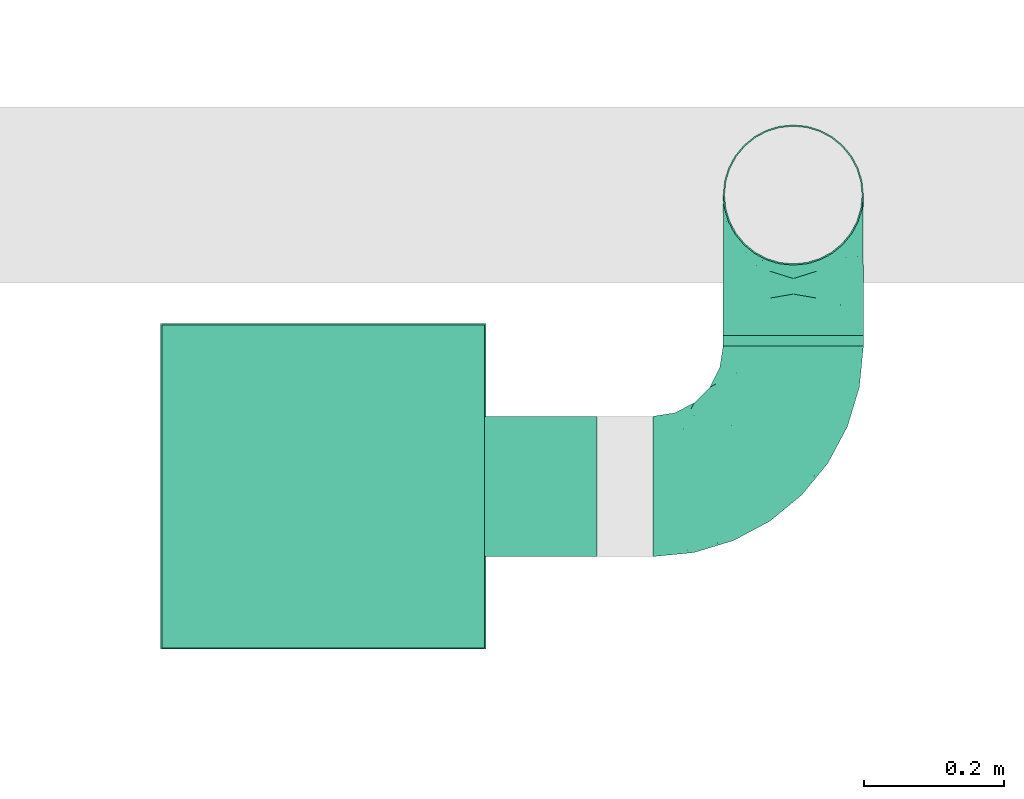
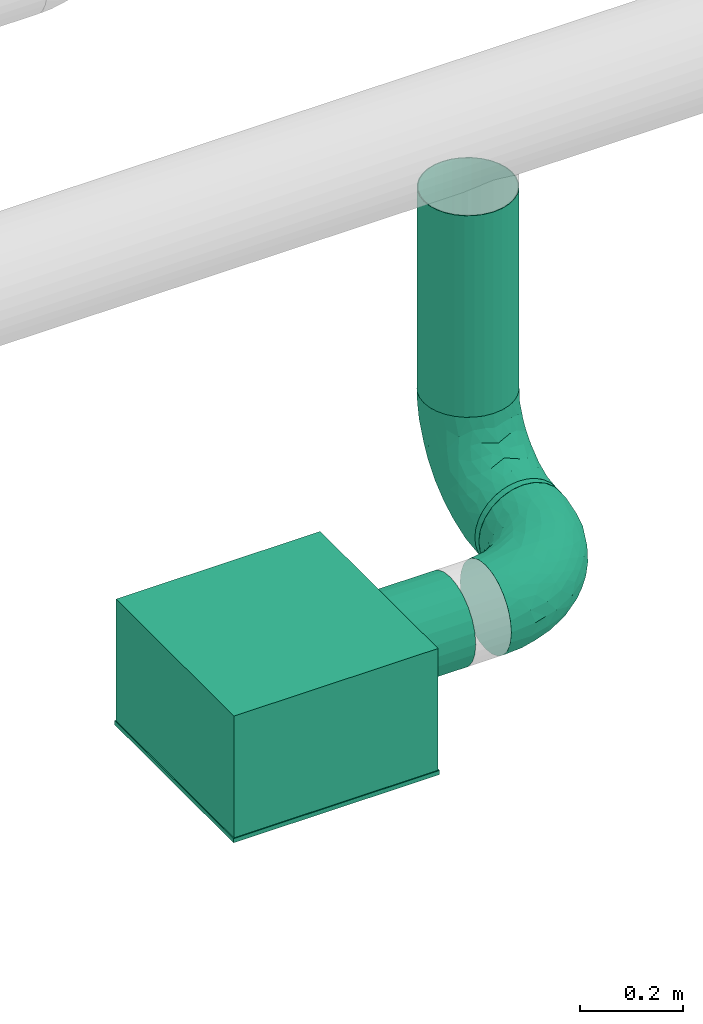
# One storey, part 21 of 31: 2 flow fittings, 2 flow segments, 1 flow terminal.
"""IFC2X3 building model written with IfcOpenShell, lengths in millimetres."""

from ifc_helpers import new_model, entity, si_unit, converted_unit, derived_unit, direction, frame, origin_with_axes, origin_2d_with_axis, place, context, subcontext, project, spatial, hollow_circle, extrude, open_shell, surface_model, source, transform, mapped, type_object, element, save


model = new_model("IFC2X3")

# Units and contexts
model_context = context("Model", 3, precision=0.01, world=frame((0.0, 4.29681676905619e-09, 0.0)), true_north=direction((4.01073788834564e-13, 1.0)))
plan_context = context("Plan", 3, precision=0.01, world=frame((0.0, 4.29681676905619e-09, 0.0)), true_north=direction((4.01073788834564e-13, 1.0)))
body_context = subcontext(model_context, "Body", "Model", "MODEL_VIEW")
ifc_project = project(units=[converted_unit("PLANEANGLEUNIT", "DEGREE", entity("IfcPositiveLengthMeasure", 0.0174532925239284), si_unit("PLANEANGLEUNIT", "RADIAN"), dimensions=[0, 0, 0, 0, 0, 0, 0]), si_unit("AREAUNIT", "SQUARE_METRE"), si_unit("LENGTHUNIT", "METRE", prefix="MILLI"), si_unit("MASSUNIT", "GRAM", prefix="KILO"), si_unit("POWERUNIT", "WATT"), si_unit("PRESSUREUNIT", "PASCAL", prefix="KILO"), si_unit("FORCEUNIT", "NEWTON", prefix="KILO"), si_unit("ELECTRICVOLTAGEUNIT", "VOLT"), si_unit("ELECTRICCURRENTUNIT", "AMPERE"), si_unit("THERMODYNAMICTEMPERATUREUNIT", "DEGREE_CELSIUS"), si_unit("TIMEUNIT", "SECOND"), si_unit("VOLUMEUNIT", "CUBIC_METRE"), derived_unit("LINEARVELOCITYUNIT", [(si_unit("LENGTHUNIT", "METRE"), 1), (si_unit("TIMEUNIT", "SECOND"), -1)]), derived_unit("VOLUMETRICFLOWRATEUNIT", [(si_unit("VOLUMEUNIT", "CUBIC_METRE"), 1), (si_unit("TIMEUNIT", "SECOND"), -1)]), derived_unit("THERMALTRANSMITTANCEUNIT", [(si_unit("POWERUNIT", "WATT"), 1), (si_unit("THERMODYNAMICTEMPERATUREUNIT", "KELVIN"), -1), (si_unit("AREAUNIT", "SQUARE_METRE"), -1)]), derived_unit("SOUNDPRESSUREUNIT", [(si_unit("PRESSUREUNIT", "PASCAL"), 1)])], contexts=[model_context, plan_context])

# Site, building, storey
site_placement = place(None, frame((0.0, -4.29681676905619e-09, 0.0), z_axis=(0.0, 0.0, 1.0), x_axis=(1.0, 0.0, 0.0)))
site = spatial("IfcSite", under=ifc_project, at=site_placement, CompositionType="ELEMENT")
building_placement = place(site_placement, frame((0.0, 4.29681676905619e-09, 0.0), z_axis=(0.0, 0.0, 1.0), x_axis=(1.0, 0.0, 0.0)))
building = spatial("IfcBuilding", under=site, at=building_placement, Name="mc-building", CompositionType="ELEMENT")
storey_placement = place(building_placement, frame((0.0, 0.0, 210900.0), z_axis=(0.0, 0.0, 1.0), x_axis=(1.0, 0.0, 0.0)))
storey = spatial("IfcBuildingStorey", under=building, at=storey_placement, Name="Nivå F", CompositionType="ELEMENT", Elevation=210900.0)

# Flow fittings
duct_fitting_type = type_object("IfcDuctFittingType", Name="magicirc_elbow_full_radius_001", PredefinedType="BEND")
shared_shape_1 = source(origin_with_axes(), body_context, "Body", "SurfaceModel", [
    surface_model("IfcShellBasedSurfaceModel", [(-200.0, 25.8819, -96.59259), (-200.0, 0.0, -100.0), (-200.0, 96.59259, -25.8819), (-200.0, 50.0, -86.60254), (-200.0, 70.71068, -70.71068), (-200.0, 86.60254, -50.0), (-200.0, 100.0, 0.0), (-200.0, -70.71068, -70.71068), (-200.0, -50.0, -86.60254), (-200.0, -25.8819, -96.59259), (-200.0, -86.60254, -50.0), (-200.0, -96.59259, -25.8819), (-200.0, -96.59259, 25.8819), (-200.0, -100.0, 0.0), (-200.0, 86.60254, 50.0), (-200.0, 96.59259, 25.8819), (-200.0, -50.0, 86.60254), (-200.0, 25.8819, 96.59259), (-200.0, 50.0, 86.60254), (-200.0, 70.71068, 70.71068), (-200.0, -86.60254, 50.0), (-200.0, -70.71068, 70.71068), (-200.0, -25.8819, 96.59259), (-200.0, 0.0, 100.0), (-25.8819, 200.0, -96.59259), (96.59259, 200.0, 25.8819), (0.0, 200.0, -100.0), (-70.71068, 200.0, -70.71068), (-50.0, 200.0, -86.60254), (-86.60254, 200.0, -50.0), (70.71068, 200.0, -70.71068), (25.8819, 200.0, -96.59259), (50.0, 200.0, -86.60254), (96.59259, 200.0, -25.8819), (86.60254, 200.0, -50.0), (100.0, 200.0, 0.0), (-96.59259, 200.0, -25.8819), (-100.0, 200.0, 0.0), (-96.59259, 200.0, 25.8819), (-86.60254, 200.0, 50.0), (-50.0, 200.0, 86.60254), (-25.8819, 200.0, 96.59259), (-70.71068, 200.0, 70.71068), (50.0, 200.0, 86.60254), (70.71068, 200.0, 70.71068), (86.60254, 200.0, 50.0), (25.8819, 200.0, 96.59259), (0.0, 200.0, 100.0), (-170.28345, -80.453, 57.20341), (-151.30505, -62.14272, 74.57098), (-141.47291, -94.23558, 0.0), (-152.48501, -91.13434, 31.26682), (-175.16033, -97.5535, 0.0), (49.44088, 33.32893, 0.0), (56.65771, 47.69157, 17.5513), (30.78646, 10.59845, 0.0), (-115.72747, -62.79147, 65.02361), (-110.24866, -47.46346, 77.46704), (-131.78251, -77.03572, 52.17296), (-155.84565, 81.73243, 67.52503), (-165.38682, 59.81194, 83.11685), (-153.53621, -15.46231, 97.89391), (-99.34826, -9.37473, 94.63603), (-109.04028, 19.17637, 99.9709), (-11.41001, 147.58509, 99.90915), (-66.65717, -62.98288, 31.65851), (-19.65477, -37.28433, 19.69829), (-42.80044, -46.52394, 38.2888), (-76.76667, -58.58513, 50.26593), (-107.75087, -80.71677, 29.70656), (-170.73585, -40.65955, 90.5511), (-172.81551, 101.70087, 19.84455), (-146.92494, 108.70969, 32.98808), (-141.22148, 119.0983, 0.0), (-63.14521, 144.11081, 85.31109), (-80.51529, 161.84448, 66.62709), (-89.41257, 123.59035, 75.49114), (-59.28706, 175.69502, 82.02298), (-159.40173, 10.55746, 99.80411), (77.16386, 85.19497, 0.0), (62.56216, 67.38452, 33.69402), (-101.70087, 172.81551, 19.84455), (-93.96462, 171.01, 43.43771), (-171.01, 93.96462, 43.43771), (-151.20277, 37.27353, 95.35782), (-100.76094, 141.8163, 52.73949), (-123.065, 123.065, 41.02461), (-115.71118, 115.71117, 58.92154), (-108.70969, 146.92494, 32.98808), (-169.09831, 104.89435, 0.0), (-126.3807, 68.32629, 87.09158), (-3.53309, 67.51081, 92.91692), (-29.40722, 29.40721, 91.09367), (0.78973, 37.96478, 81.45071), (-60.00062, -0.36077, 89.58959), (-67.88209, 21.58789, 97.54896), (62.32031, 154.13138, 74.86163), (-141.8163, 100.76094, 52.73949), (91.13434, 152.48501, 31.26682), (80.453, 170.28345, 57.20341), (-18.49849, -12.30744, 60.90175), (8.80323, 19.6267, 65.08263), (-25.42255, 3.46809, 77.76258), (-74.03921, 114.7783, 87.77152), (-87.24231, 87.48345, 91.33971), (-52.29396, 97.96814, 97.88047), (97.5535, 175.16033, 0.0), (15.66986, 158.34417, 98.04921), (39.67143, 143.40046, 88.65468), (-104.89435, 169.09831, 0.0), (-119.0983, 141.22148, 0.0), (-79.31604, 55.69606, 99.29154), (50.31225, 117.34231, 77.16335), (77.03572, 131.78251, 52.17296), (-113.91527, 94.9934, 76.65605), (64.93177, 92.97178, 51.47516), (47.72556, 81.69016, 66.67609), (40.01044, 43.97718, 50.57869), (-17.45546, -26.87288, 41.03287), (-127.86769, 127.86769, 19.95139), (-59.26195, -63.30237, 0.0), (-33.32893, -49.44088, 0.0), (-15.13235, 108.44666, 99.8016), (9.03102, 110.97634, 96.23014), (-35.35458, 66.6809, 99.29493), (-36.40308, 160.4143, 94.8486), (-32.26105, 126.83648, 98.54453), (5.63455, -13.55537, 26.35365), (8.74012, 0.17058, 45.65263), (46.65777, 40.2329, 34.44568), (80.66195, 107.48302, 29.60457), (85.69972, 113.33393, 0.0), (28.17336, 90.6004, 84.77214), (-103.20436, 61.65595, 95.02282), (-132.43349, -38.40548, 87.83865), (-113.33393, -85.69972, 0.0), (-87.1495, -28.94235, 83.35483), (-47.7214, -39.47514, 54.58142), (-52.3084, 125.73797, 93.79051), (25.86889, 52.68176, 71.74074), (63.30237, 59.26195, 0.0), (94.23558, 141.47291, 0.0), (29.54521, 14.24018, 30.32032), (-85.19497, -77.16386, 0.0), (-50.98503, -24.63183, 71.83876), (-81.69017, -47.72556, 66.67609), (-10.59845, -30.78646, 0.0), (12.13203, -12.13203, 0.0), (-160.4143, 36.40307, -94.8486), (-126.83648, 32.26105, -98.54453), (-147.58509, 11.41001, -99.90915), (-59.81194, 165.3868, -83.11686), (-158.34417, -15.66986, -98.0492), (-110.97634, -9.03102, -96.23014), (12.30745, 18.4985, -60.90175), (-19.62669, -8.80321, -65.08265), (-3.46809, 25.42255, -77.76258), (-114.7783, 74.03921, -87.77153), (-87.48346, 87.2423, -91.33971), (-97.96814, 52.29396, -97.88047), (-172.81551, 101.70087, -19.84455), (13.55537, -5.63454, -26.35364), (-0.17055, -8.74011, -45.6526), (26.87289, 17.45547, -41.03286), (-146.92494, 108.70969, -32.98808), (-47.69157, -56.65771, -17.5513), (-123.06501, 123.065, -41.02461), (-127.86769, 127.86769, -19.95139), (-108.70969, 146.92494, -32.98808), (-175.69502, 59.28706, -82.02298), (-161.84448, 80.51529, -66.62709), (-144.11081, 63.14521, -85.31109), (62.98288, 66.65718, -31.65851), (-81.73243, 155.84565, -67.52503), (-141.8163, 100.76093, -52.73949), (-171.01, 93.96462, -43.43771), (-55.69606, 79.31604, -99.29154), (-66.68089, 35.35458, -99.29493), (-152.48501, -91.13434, -31.26682), (-170.28345, -80.45301, -57.20341), (-92.97178, -64.93177, -51.47516), (-81.69017, -47.72556, -66.67608), (-43.97716, -40.01043, -50.57869), (-10.55746, 159.40173, -99.80411), (15.46231, 153.53621, -97.89391), (-154.13138, -62.32031, -74.86163), (-143.40046, -39.67143, -88.65468), (-37.27353, 151.20276, -95.35782), (-107.48302, -80.66195, -29.60457), (0.36078, 60.00061, -89.58959), (-29.40721, 29.40721, -91.09366), (-21.58789, 67.88208, -97.54896), (-100.76094, 141.8163, -52.73949), (-93.96462, 171.01, -43.43771), (-101.70087, 172.81551, -19.84455), (-19.17637, 109.04027, -99.9709), (-123.59035, 89.41257, -75.49114), (62.14272, 151.30505, -74.57098), (40.65955, 170.73585, -90.5511), (46.52395, 42.80044, -38.28881), (37.28435, 19.6548, -19.69829), (-68.3263, 126.38069, -87.09158), (-67.51081, 3.53309, -92.91692), (-37.96476, -0.78971, -81.45071), (58.58512, 76.76664, -50.26592), (-67.38452, -62.56216, -33.69402), (80.45301, 170.28345, -57.20341), (80.71677, 107.75087, -29.70656), (38.40548, 132.43348, -87.83865), (62.79147, 115.72747, -65.02361), (47.46347, 110.24866, -77.46703), (91.13434, 152.48501, -31.26682), (-40.2329, -46.65777, -34.44568), (-90.60041, -28.17337, -84.77214), (77.03572, 131.78251, -52.17296), (9.37473, 99.34825, -94.63603), (-117.34231, -50.31225, -77.16335), (-131.78251, -77.03572, -52.17296), (-94.99341, 113.91526, -76.65605), (-108.44666, 15.13234, -99.8016), (-61.65596, 103.20434, -95.02282), (28.94235, 87.1495, -83.35483), (39.47513, 47.72139, -54.58143), (-125.73797, 52.30839, -93.79051), (-52.68177, -25.86889, -71.74075), (-115.71118, 115.71117, -58.92154), (-14.24018, -29.54521, -30.32033), (24.63182, 50.98504, -71.83876), (47.72556, 81.69017, -66.67609)], [open_shell([[[0, 1, 2]], [[3, 0, 4]], [[2, 5, 4]], [[0, 2, 4]], [[6, 1, 7]], [[8, 7, 9]], [[7, 1, 9]], [[10, 11, 7]], [[12, 11, 13]], [[12, 7, 11]], [[2, 1, 6]], [[14, 15, 6]], [[16, 14, 7]], [[14, 17, 18]], [[19, 14, 18]], [[17, 14, 16]], [[20, 21, 12]], [[16, 12, 21]], [[16, 22, 17]], [[16, 7, 12]], [[17, 22, 23]], [[14, 6, 7]], [[24, 25, 26]], [[27, 24, 28]], [[25, 27, 29]], [[24, 27, 25]], [[30, 26, 25]], [[31, 30, 32]], [[31, 26, 30]], [[30, 33, 34]], [[35, 33, 25]], [[33, 30, 25]], [[25, 29, 36]], [[37, 38, 39]], [[25, 37, 39]], [[40, 41, 39]], [[40, 39, 42]], [[43, 39, 41]], [[25, 44, 45]], [[44, 25, 43]], [[41, 46, 43]], [[43, 25, 39]], [[47, 46, 41]], [[37, 25, 36]], [[21, 48, 49]], [[50, 51, 52]], [[53, 54, 55]], [[56, 57, 49]], [[48, 51, 58]], [[59, 19, 60]], [[61, 62, 63]], [[47, 41, 64]], [[65, 66, 67]], [[68, 69, 65]], [[16, 21, 49]], [[19, 18, 60]], [[16, 70, 22]], [[71, 72, 73]], [[74, 75, 76]], [[77, 40, 42]], [[19, 59, 14]], [[23, 78, 17]], [[54, 79, 80]], [[38, 81, 82]], [[70, 61, 22]], [[21, 20, 48]], [[83, 15, 14]], [[83, 72, 71]], [[84, 18, 17]], [[6, 15, 71]], [[85, 86, 87]], [[85, 82, 88]], [[71, 73, 89]], [[22, 61, 23]], [[90, 60, 84]], [[91, 92, 93]], [[65, 67, 68]], [[94, 92, 95]], [[43, 96, 44]], [[97, 72, 83]], [[25, 45, 98]], [[44, 99, 45]], [[75, 42, 39]], [[100, 101, 102]], [[103, 104, 105]], [[98, 106, 25]], [[46, 107, 108]], [[108, 96, 43]], [[109, 110, 81]], [[104, 111, 105]], [[112, 113, 96]], [[98, 45, 99]], [[114, 59, 90]], [[108, 43, 46]], [[115, 116, 117]], [[88, 81, 110]], [[67, 66, 118]], [[110, 73, 119]], [[109, 81, 37]], [[95, 111, 63]], [[120, 121, 65]], [[86, 119, 72]], [[122, 123, 64]], [[111, 124, 105]], [[75, 74, 77]], [[64, 125, 126]], [[127, 128, 118]], [[80, 129, 54]], [[41, 40, 125]], [[125, 64, 41]], [[123, 107, 64]], [[98, 130, 131]], [[132, 108, 123]], [[47, 107, 46]], [[78, 23, 61]], [[20, 12, 51]], [[133, 63, 111]], [[130, 98, 113]], [[115, 117, 80]], [[82, 39, 38]], [[75, 85, 76]], [[62, 61, 134]], [[78, 63, 84]], [[56, 49, 58]], [[70, 49, 134]], [[51, 12, 52]], [[51, 135, 69]], [[115, 130, 113]], [[82, 81, 88]], [[62, 136, 94]], [[62, 94, 95]], [[67, 118, 137]], [[69, 58, 51]], [[77, 125, 40]], [[126, 138, 105]], [[112, 96, 108]], [[99, 96, 113]], [[117, 116, 139]], [[66, 127, 118]], [[92, 102, 93]], [[92, 94, 102]], [[63, 78, 61]], [[84, 17, 78]], [[64, 107, 47]], [[108, 107, 123]], [[84, 60, 18]], [[59, 60, 90]], [[87, 114, 76]], [[104, 103, 114]], [[114, 87, 97]], [[104, 114, 90]], [[63, 133, 84]], [[138, 103, 105]], [[90, 133, 104]], [[63, 62, 95]], [[91, 124, 92]], [[122, 64, 126]], [[92, 124, 95]], [[111, 95, 124]], [[140, 79, 54]], [[131, 141, 98]], [[88, 86, 85]], [[75, 39, 82]], [[76, 85, 87]], [[75, 82, 85]], [[14, 59, 83]], [[97, 87, 86]], [[83, 59, 97]], [[114, 97, 59]], [[117, 142, 129]], [[65, 69, 143]], [[136, 62, 134]], [[102, 101, 93]], [[144, 94, 136]], [[137, 100, 144]], [[57, 136, 134]], [[136, 145, 144]], [[101, 139, 93]], [[91, 132, 123]], [[93, 139, 132]], [[91, 123, 122]], [[93, 132, 91]], [[132, 116, 112]], [[144, 100, 102]], [[128, 100, 118]], [[144, 102, 94]], [[137, 144, 145]], [[137, 145, 68]], [[100, 137, 118]], [[56, 68, 145]], [[69, 68, 58]], [[101, 128, 117]], [[132, 139, 116]], [[101, 117, 139]], [[129, 80, 117]], [[68, 67, 137]], [[65, 143, 120]], [[127, 146, 147]], [[55, 127, 147]], [[66, 146, 127]], [[128, 127, 142]], [[117, 128, 142]], [[100, 128, 101]], [[138, 125, 74]], [[122, 105, 124]], [[105, 122, 126]], [[91, 122, 124]], [[125, 138, 126]], [[138, 74, 103]], [[74, 76, 103]], [[114, 103, 76]], [[132, 112, 108]], [[112, 116, 115]], [[12, 13, 52]], [[106, 98, 141]], [[106, 35, 25]], [[37, 81, 38]], [[88, 110, 119]], [[97, 86, 72]], [[72, 119, 73]], [[88, 119, 86]], [[6, 71, 89]], [[83, 71, 15]], [[75, 77, 42]], [[125, 77, 74]], [[49, 70, 16]], [[61, 70, 134]], [[51, 48, 20]], [[49, 48, 58]], [[96, 99, 44]], [[98, 99, 113]], [[80, 79, 130]], [[130, 115, 80]], [[112, 115, 113]], [[68, 56, 58]], [[57, 56, 145]], [[136, 57, 145]], [[49, 57, 134]], [[65, 121, 66]], [[127, 55, 142]], [[84, 133, 90]], [[111, 104, 133]], [[130, 79, 131]], [[135, 51, 50]], [[135, 143, 69]], [[142, 55, 54]], [[142, 54, 129]], [[140, 54, 53]], [[66, 121, 146]], [[148, 149, 150]], [[28, 151, 27]], [[152, 150, 153]], [[154, 155, 156]], [[150, 0, 148]], [[157, 158, 159]], [[89, 160, 6]], [[161, 162, 163]], [[164, 160, 73]], [[121, 165, 146]], [[166, 167, 168]], [[169, 170, 171]], [[140, 53, 172]], [[27, 173, 29]], [[174, 175, 164]], [[176, 177, 159]], [[178, 10, 179]], [[180, 181, 182]], [[178, 52, 11]], [[183, 26, 184]], [[185, 8, 186]], [[0, 3, 148]], [[9, 186, 8]], [[187, 28, 24]], [[31, 184, 26]], [[178, 11, 10]], [[179, 10, 7]], [[178, 188, 135]], [[7, 8, 185]], [[152, 186, 9]], [[189, 190, 191]], [[158, 176, 159]], [[167, 73, 110]], [[192, 168, 193]], [[166, 168, 192]], [[193, 36, 29]], [[36, 194, 37]], [[191, 176, 195]], [[171, 170, 196]], [[194, 193, 168]], [[160, 175, 2]], [[197, 32, 30]], [[198, 184, 31]], [[173, 27, 151]], [[169, 3, 4]], [[26, 183, 24]], [[199, 200, 163]], [[187, 201, 151]], [[202, 190, 203]], [[31, 32, 198]], [[199, 172, 200]], [[172, 199, 204]], [[165, 143, 205]], [[30, 34, 206]], [[207, 172, 204]], [[89, 73, 160]], [[198, 197, 208]], [[9, 1, 152]], [[209, 210, 197]], [[170, 4, 5]], [[211, 106, 141]], [[205, 212, 165]], [[213, 186, 153]], [[211, 214, 206]], [[34, 33, 211]], [[215, 195, 184]], [[194, 168, 110]], [[1, 0, 150]], [[216, 217, 185]], [[194, 110, 109]], [[218, 173, 201]], [[219, 153, 150]], [[220, 195, 176]], [[188, 178, 217]], [[180, 182, 205]], [[175, 5, 2]], [[170, 174, 196]], [[206, 197, 30]], [[209, 197, 214]], [[215, 184, 208]], [[183, 195, 187]], [[211, 33, 106]], [[211, 131, 207]], [[180, 188, 217]], [[33, 35, 106]], [[215, 221, 189]], [[215, 189, 191]], [[199, 163, 222]], [[207, 214, 211]], [[169, 148, 3]], [[149, 223, 159]], [[216, 185, 186]], [[179, 185, 217]], [[182, 181, 224]], [[200, 161, 163]], [[190, 156, 203]], [[190, 189, 156]], [[195, 183, 184]], [[187, 24, 183]], [[150, 152, 1]], [[186, 152, 153]], [[187, 151, 28]], [[173, 151, 201]], [[225, 218, 196]], [[158, 157, 218]], [[218, 225, 192]], [[158, 218, 201]], [[195, 220, 187]], [[223, 157, 159]], [[201, 220, 158]], [[195, 215, 191]], [[202, 177, 190]], [[219, 150, 149]], [[190, 177, 191]], [[176, 191, 177]], [[120, 143, 165]], [[135, 50, 178]], [[164, 166, 174]], [[170, 5, 175]], [[196, 174, 225]], [[170, 175, 174]], [[29, 173, 193]], [[192, 225, 166]], [[193, 173, 192]], [[218, 192, 173]], [[182, 226, 212]], [[172, 207, 79]], [[221, 215, 208]], [[156, 155, 203]], [[227, 189, 221]], [[222, 154, 227]], [[210, 221, 208]], [[221, 228, 227]], [[155, 224, 203]], [[202, 213, 153]], [[203, 224, 213]], [[202, 153, 219]], [[203, 213, 202]], [[213, 181, 216]], [[227, 154, 156]], [[162, 154, 163]], [[227, 156, 189]], [[222, 227, 228]], [[222, 228, 204]], [[154, 222, 163]], [[209, 204, 228]], [[207, 204, 214]], [[155, 162, 182]], [[213, 224, 181]], [[155, 182, 224]], [[212, 205, 182]], [[204, 199, 222]], [[172, 79, 140]], [[161, 55, 147]], [[146, 161, 147]], [[200, 55, 161]], [[162, 161, 226]], [[182, 162, 226]], [[154, 162, 155]], [[223, 148, 171]], [[219, 159, 177]], [[159, 219, 149]], [[202, 219, 177]], [[148, 223, 149]], [[223, 171, 157]], [[171, 196, 157]], [[218, 157, 196]], [[213, 216, 186]], [[216, 181, 180]], [[52, 178, 50]], [[52, 13, 11]], [[175, 160, 164]], [[6, 160, 2]], [[174, 166, 225]], [[167, 164, 73]], [[168, 167, 110]], [[164, 167, 166]], [[37, 194, 109]], [[193, 194, 36]], [[170, 169, 4]], [[148, 169, 171]], [[197, 198, 32]], [[184, 198, 208]], [[211, 206, 34]], [[197, 206, 214]], [[185, 179, 7]], [[178, 179, 217]], [[205, 143, 188]], [[188, 180, 205]], [[216, 180, 217]], [[204, 209, 214]], [[210, 209, 228]], [[221, 210, 228]], [[197, 210, 208]], [[172, 53, 200]], [[161, 146, 226]], [[187, 220, 201]], [[176, 158, 220]], [[188, 143, 135]], [[131, 211, 141]], [[131, 79, 207]], [[226, 146, 165]], [[226, 165, 212]], [[120, 165, 121]], [[200, 53, 55]]])]),
])
for number, where, z_axis, x_axis, name in (
    (1, (723870.52987, 440841.83428, 2965.0), (-1.0, 0.0, 0.0), (0.0, 0.0, -1.0), "magicirc_elbow_full_radius_001"),
    (2, (723870.52987, 440426.3317, 2965.0), (0.0, 0.0, 1.0), (1.0, 0.0, 0.0), "magicirc_elbow_full_radius_001"),
):
    element("IfcFlowFitting", number, at=place(storey_placement, frame(where, z_axis=z_axis, x_axis=x_axis)), inside=storey, type_object=duct_fitting_type, Name=name, context=body_context, shape_type="MappedRepresentation", body=[
        mapped(shared_shape_1, transform((0.0, 0.0, 0.0), scale=1.0)),
    ])

# Flow segments
duct_segment_type = type_object("IfcDuctSegmentType", Name="KK001T - Spiro kanaler, Forsinket stål", PredefinedType="RIGIDSEGMENT")
shared_shape_2 = source(origin_with_axes(), body_context, "Body", "SweptSolid", [
    extrude(hollow_circle(Radius=100.0, WallThickness=2.0, at=origin_2d_with_axis()), frame((0.0, 0.0, 0.0), z_axis=(1.0, 0.0, 0.0), x_axis=(0.0, 1.0, 0.0)), (0.0, 0.0, 1.0), 15.5),
])
flow_segment_1_placement = place(storey_placement, frame((723870.52987, 440641.83428, 2965.0), z_axis=(0.0, 0.0, 1.0), x_axis=(0.0, -1.0, 0.0)))
element("IfcFlowSegment", 3, at=flow_segment_1_placement, inside=storey, type_object=duct_segment_type, Name="KK001T - Spiro kanaler, Forsinket stål", context=body_context, shape_type="MappedRepresentation", body=[
    mapped(shared_shape_2, transform((0.0, 0.0, 0.0), scale=1.0)),
])
shared_shape_3 = source(origin_with_axes(), body_context, "Body", "SweptSolid", [
    extrude(hollow_circle(Radius=100.0, WallThickness=2.0, at=origin_2d_with_axis()), frame((0.0, 0.0, 0.0), z_axis=(1.0, 0.0, 0.0), x_axis=(0.0, 1.0, 0.0)), (0.0, 0.0, 1.0), 480.0),
])
flow_segment_2_placement = place(storey_placement, frame((723870.52987, 440841.83428, 3645.0), z_axis=(0.0, -1.0, 0.0), x_axis=(0.0, 0.0, -1.0)))
element("IfcFlowSegment", 4, at=flow_segment_2_placement, inside=storey, type_object=duct_segment_type, Name="KK001T - Spiro kanaler, Forsinket stål", context=body_context, shape_type="MappedRepresentation", body=[
    mapped(shared_shape_3, transform((0.0, 0.0, 0.0), scale=1.0)),
])

# Flow terminal
air_terminal_type = type_object("IfcAirTerminalType", Name="NS19-H-S-2-200 - 4-way", PredefinedType="NOTDEFINED")
shared_shape_4 = source(origin_with_axes(), body_context, "Body", "SurfaceModel", [
    surface_model("IfcShellBasedSurfaceModel", [(-231.99999, 231.99999, 0.0), (-231.99999, -231.99999, 0.0), (231.99999, -231.99999, 0.0), (231.99999, 231.99999, 0.0), (231.99999, 231.99999, -10.0), (231.99999, -231.99999, -10.0), (-231.99999, -231.99999, -10.0), (-231.99999, 231.99999, -10.0), (-230.0, 230.0, 289.99999), (-230.0, -230.0, 289.99999), (230.0, -230.0, 289.99999), (230.0, 230.0, 289.99999), (230.0, 230.0, 0.0), (230.0, -230.0, 0.0), (-230.0, -230.0, 0.0), (-230.0, 230.0, 0.0), (-230.0, 50.0, 78.39746), (-230.0, 70.71068, 94.28932), (-230.0, 49.9, 78.57067), (-230.0, 25.83014, 68.6006), (-230.0, 0.0, 65.2), (-230.0, 25.8819, 68.40742), (-230.0, 0.0, 65.0), (-230.0, 70.56926, 94.43075), (-230.0, 96.59259, 139.1181), (-230.0, 99.8, 164.99999), (-230.0, 96.39939, 139.16986), (-230.0, 100.0, 164.99999), (-230.0, 86.60254, 115.0), (-230.0, 86.42934, 115.1), (-230.0, -25.83014, 68.6006), (-230.0, -25.8819, 68.40742), (-230.0, -49.9, 78.57067), (-230.0, -70.71068, 94.28932), (-230.0, -50.0, 78.39746), (-230.0, -70.56926, 94.43075), (-230.0, -86.42934, 115.1), (-230.0, -86.60254, 115.0), (-230.0, -96.39939, 139.16986), (-230.0, -96.59259, 139.1181), (-230.0, -99.8, 164.99999), (-230.0, -100.0, 164.99999), (-230.0, 96.59259, 190.8819), (-230.0, 96.39939, 190.83014), (-230.0, 86.42934, 214.9), (-230.0, 86.60254, 214.99999), (-230.0, 70.56926, 235.56925), (-230.0, 70.71068, 235.71069), (-230.0, 50.0, 251.60254), (-230.0, 49.9, 251.42933), (-230.0, 25.83014, 261.3994), (-230.0, 25.8819, 261.59259), (-230.0, 0.0, 264.80001), (-230.0, 0.0, 264.99999), (-230.0, -86.60254, 214.99999), (-230.0, -86.42934, 214.9), (-230.0, -70.71068, 235.71069), (-230.0, -70.56926, 235.56925), (-230.0, -96.59259, 190.8819), (-230.0, -96.39939, 190.83014), (-230.0, -25.83014, 261.3994), (-230.0, -25.8819, 261.59259), (-230.0, -49.9, 251.42933), (-230.0, -50.0, 251.60254), (-390.0, 50.0, 251.60254), (-390.0, 70.71068, 235.71069), (-390.0, 49.9, 251.42933), (-390.0, 25.83014, 261.3994), (-390.0, 0.0, 264.80001), (-390.0, 25.8819, 261.59259), (-390.0, 0.0, 264.99999), (-390.0, 70.56926, 235.56925), (-390.0, 96.59259, 190.8819), (-390.0, 99.8, 164.99999), (-390.0, 96.39939, 190.83014), (-390.0, 100.0, 164.99999), (-390.0, 86.60254, 214.99999), (-390.0, 86.42934, 214.9), (-390.0, -25.83014, 261.3994), (-390.0, -25.8819, 261.59259), (-390.0, -49.9, 251.42933), (-390.0, -70.71068, 235.71069), (-390.0, -50.0, 251.60254), (-390.0, -70.56926, 235.56925), (-390.0, -86.42934, 214.9), (-390.0, -86.60254, 214.99999), (-390.0, -96.39939, 190.83014), (-390.0, -96.59259, 190.8819), (-390.0, -99.8, 164.99999), (-390.0, -100.0, 164.99999), (-390.0, 96.59259, 139.1181), (-390.0, 96.39939, 139.16986), (-390.0, 86.42934, 115.1), (-390.0, 86.60254, 115.0), (-390.0, 70.56926, 94.43075), (-390.0, 70.71068, 94.28932), (-390.0, 50.0, 78.39746), (-390.0, 49.9, 78.57067), (-390.0, 25.83014, 68.6006), (-390.0, 25.8819, 68.40742), (-390.0, 0.0, 65.2), (-390.0, 0.0, 65.0), (-390.0, -86.60254, 115.0), (-390.0, -86.42934, 115.1), (-390.0, -70.71068, 94.28932), (-390.0, -70.56926, 94.43075), (-390.0, -96.59259, 139.1181), (-390.0, -96.39939, 139.16986), (-390.0, -25.83014, 68.6006), (-390.0, -25.8819, 68.40742), (-390.0, -49.9, 78.57067), (-390.0, -50.0, 78.39746)], [open_shell([[[0, 1, 2]], [[2, 3, 0]], [[4, 5, 6]], [[6, 7, 4]], [[2, 1, 6]], [[6, 5, 2]], [[3, 2, 5]], [[5, 4, 3]], [[0, 3, 4]], [[4, 7, 0]], [[1, 0, 7]], [[7, 6, 1]], [[8, 9, 10]], [[10, 11, 8]], [[12, 13, 14]], [[14, 15, 12]], [[10, 9, 13]], [[14, 13, 9]], [[11, 10, 12]], [[13, 12, 10]], [[8, 11, 15]], [[12, 15, 11]], [[9, 8, 14]], [[15, 14, 8]], [[16, 17, 18]], [[16, 18, 19]], [[20, 21, 19]], [[21, 20, 22]], [[19, 21, 16]], [[18, 17, 23]], [[24, 25, 26]], [[25, 24, 27]], [[24, 26, 28]], [[23, 28, 29]], [[28, 23, 17]], [[29, 28, 26]], [[22, 30, 31]], [[31, 30, 32]], [[33, 34, 35]], [[32, 34, 31]], [[32, 35, 34]], [[22, 20, 30]], [[36, 37, 33]], [[37, 36, 38]], [[36, 33, 35]], [[39, 38, 40]], [[38, 39, 37]], [[39, 40, 41]], [[27, 42, 43]], [[43, 42, 44]], [[44, 45, 46]], [[45, 44, 42]], [[46, 45, 47]], [[47, 48, 49]], [[49, 48, 50]], [[50, 51, 52]], [[51, 50, 48]], [[52, 51, 53]], [[49, 46, 47]], [[54, 55, 56]], [[56, 55, 57]], [[55, 54, 58]], [[41, 59, 58]], [[58, 59, 55]], [[41, 40, 59]], [[60, 53, 61]], [[60, 61, 62]], [[57, 63, 56]], [[57, 62, 63]], [[63, 62, 61]], [[52, 53, 60]], [[43, 25, 27]], [[64, 65, 66]], [[64, 66, 67]], [[68, 69, 67]], [[69, 68, 70]], [[67, 69, 64]], [[66, 65, 71]], [[72, 73, 74]], [[73, 72, 75]], [[72, 74, 76]], [[71, 76, 77]], [[76, 71, 65]], [[77, 76, 74]], [[70, 78, 79]], [[79, 78, 80]], [[81, 82, 83]], [[80, 82, 79]], [[80, 83, 82]], [[70, 68, 78]], [[84, 85, 81]], [[85, 84, 86]], [[84, 81, 83]], [[87, 86, 88]], [[86, 87, 85]], [[87, 88, 89]], [[75, 90, 91]], [[91, 90, 92]], [[92, 93, 94]], [[93, 92, 90]], [[94, 93, 95]], [[95, 96, 97]], [[97, 96, 98]], [[98, 99, 100]], [[99, 98, 96]], [[100, 99, 101]], [[97, 94, 95]], [[102, 103, 104]], [[104, 103, 105]], [[103, 102, 106]], [[89, 107, 106]], [[106, 107, 103]], [[89, 88, 107]], [[108, 101, 109]], [[108, 109, 110]], [[105, 111, 104]], [[105, 110, 111]], [[111, 110, 109]], [[100, 101, 108]], [[91, 73, 75]], [[39, 106, 102]], [[104, 37, 102]], [[34, 111, 109]], [[104, 111, 33]], [[31, 109, 101]], [[106, 41, 89]], [[106, 39, 41]], [[102, 37, 39]], [[104, 33, 37]], [[34, 33, 111]], [[109, 31, 34]], [[101, 22, 31]], [[21, 99, 96]], [[95, 16, 96]], [[28, 93, 90]], [[95, 93, 17]], [[24, 90, 75]], [[99, 21, 22]], [[96, 16, 21]], [[95, 17, 16]], [[93, 28, 17]], [[24, 28, 90]], [[75, 27, 24]], [[99, 22, 101]], [[75, 72, 42]], [[48, 64, 69]], [[64, 47, 65]], [[51, 69, 70]], [[72, 45, 42]], [[42, 27, 75]], [[76, 47, 45]], [[76, 65, 47]], [[47, 64, 48]], [[69, 51, 48]], [[76, 45, 72]], [[70, 53, 51]], [[61, 79, 82]], [[81, 63, 82]], [[54, 85, 87]], [[81, 85, 56]], [[58, 87, 89]], [[79, 61, 53]], [[82, 63, 61]], [[81, 56, 63]], [[85, 54, 56]], [[58, 54, 87]], [[89, 41, 58]], [[79, 53, 70]], [[103, 107, 38]], [[103, 36, 105]], [[108, 110, 32]], [[35, 110, 105]], [[100, 108, 30]], [[88, 40, 107]], [[40, 38, 107]], [[38, 36, 103]], [[36, 35, 105]], [[110, 35, 32]], [[32, 30, 108]], [[30, 20, 100]], [[97, 98, 19]], [[97, 18, 94]], [[91, 92, 29]], [[23, 92, 94]], [[73, 91, 26]], [[20, 19, 98]], [[19, 18, 97]], [[18, 23, 94]], [[23, 29, 92]], [[91, 29, 26]], [[26, 25, 73]], [[100, 20, 98]], [[43, 74, 73]], [[67, 66, 49]], [[71, 46, 66]], [[68, 67, 50]], [[43, 44, 74]], [[73, 25, 43]], [[44, 46, 77]], [[46, 71, 77]], [[49, 66, 46]], [[49, 50, 67]], [[74, 44, 77]], [[50, 52, 68]], [[80, 78, 60]], [[80, 62, 83]], [[86, 84, 55]], [[57, 84, 83]], [[88, 86, 59]], [[52, 60, 78]], [[60, 62, 80]], [[62, 57, 83]], [[57, 55, 84]], [[86, 55, 59]], [[59, 40, 88]], [[68, 52, 78]]])]),
])
flow_terminal_placement = place(storey_placement, frame((723200.5018, 440426.3317, 2799.98813000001), z_axis=(0.0, 0.0, 1.0), x_axis=(-1.0, 0.0, 0.0)))
element("IfcFlowTerminal", 5, at=flow_terminal_placement, inside=storey, type_object=air_terminal_type, Name="NS19-H-S-2-200 - 4-way", context=body_context, shape_type="MappedRepresentation", body=[
    mapped(shared_shape_4, transform((0.0, 0.0, 0.0), scale=1.0)),
])

save(model, "model.ifc")
